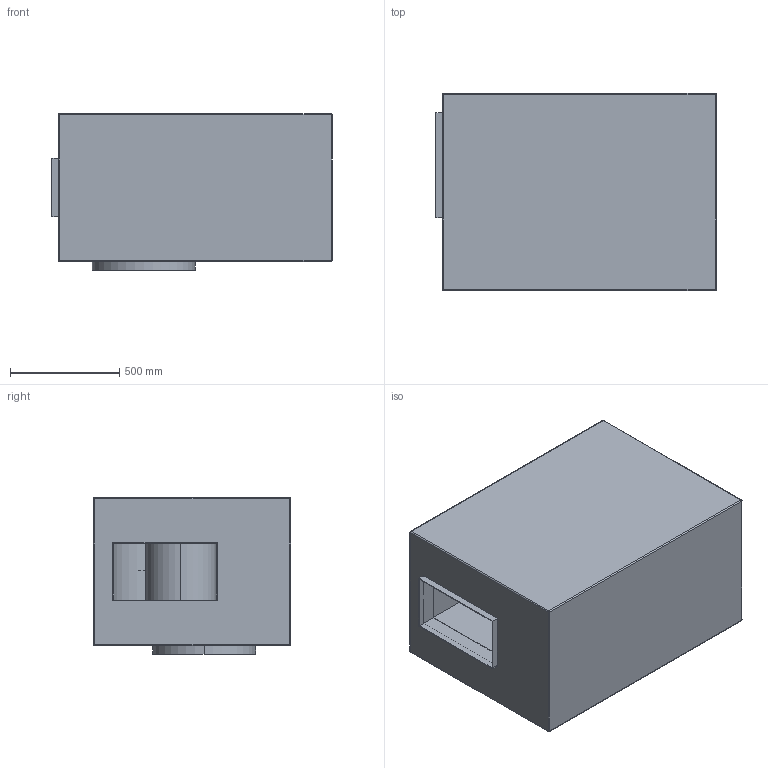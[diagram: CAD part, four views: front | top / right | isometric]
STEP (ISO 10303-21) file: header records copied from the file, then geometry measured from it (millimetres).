
FILE_DESCRIPTION(('STEP AP214'),'1');
FILE_NAME('fan_sptr000121_h.stp','2017-03-31T12:38:13',('TraceParts'),('TraceParts S.A.'),'Spatial InterOp 3D',' ',' ');
FILE_SCHEMA(('automotive_design'));
Length unit declared in the file: millimetre
Products named in the file (1): fan_sptr000121_h
Bounding box: 1280 x 900 x 715 mm (x, y, z)
Volume: 300153920.4 mm3; surface area: 12237230.4 mm2
Topology: 1 solids, 1 shells, 145 faces, 377 edges, 230 vertices
Faces by surface type: plane 82, cylinder 51, sphere 8, torus 4
Entity records: 5567 total; most frequent: DIRECTION 801, CARTESIAN_POINT 745, ORIENTED_EDGE 738, EDGE_CURVE 369, AXIS2_PLACEMENT_3D 286, VERTEX_POINT 230, LINE 229, VECTOR 229
